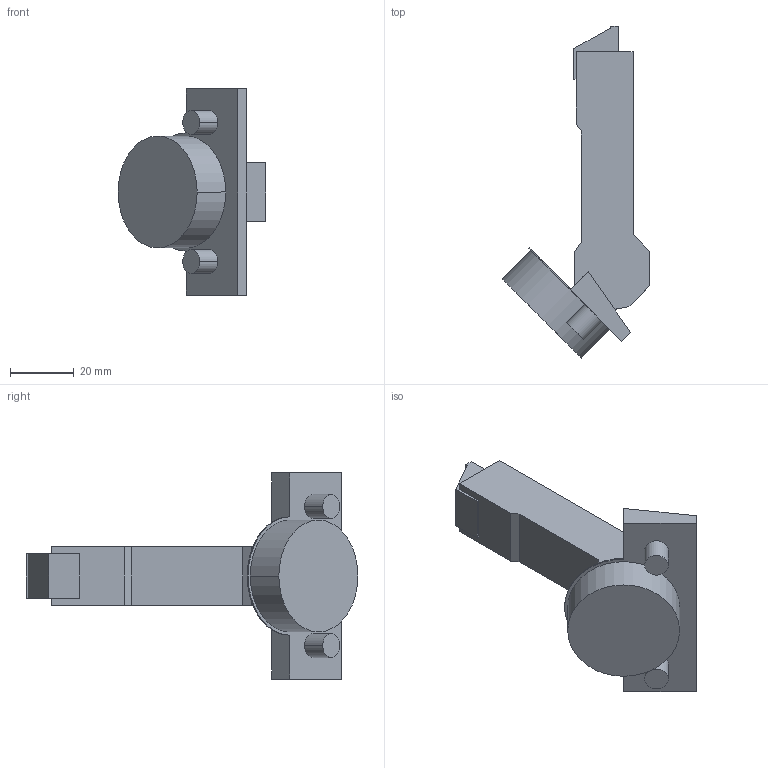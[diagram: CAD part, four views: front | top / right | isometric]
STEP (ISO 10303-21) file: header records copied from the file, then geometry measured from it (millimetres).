
FILE_DESCRIPTION (( 'STEP AP214' ), '1' );
FILE_NAME ('Scharnier TS Impresso 110°_+45° GB_BB, aufliegend.step', '2010-12-13T10:20:56', ( 'grass' ), ( '' ), 'SwSTEP 2.0', 'SolidWorks 2010', '' );
FILE_SCHEMA (( 'AUTOMOTIVE_DESIGN' ));
Length unit declared in the file: millimetre
Products named in the file (1): Scharnier TS Impresso 110°_+45° GB_BB, aufliegend
Bounding box: 46.27 x 103.84 x 64.5 mm (x, y, z)
Volume: 47883.6 mm3; surface area: 13067.5 mm2
Topology: 1 solids, 3 shells, 58 faces, 138 edges, 92 vertices
Faces by surface type: plane 41, cylinder 17
Entity records: 1706 total; most frequent: DIRECTION 290, CARTESIAN_POINT 289, ORIENTED_EDGE 276, EDGE_CURVE 138, VECTOR 104, LINE 104, AXIS2_PLACEMENT_3D 93, VERTEX_POINT 92
